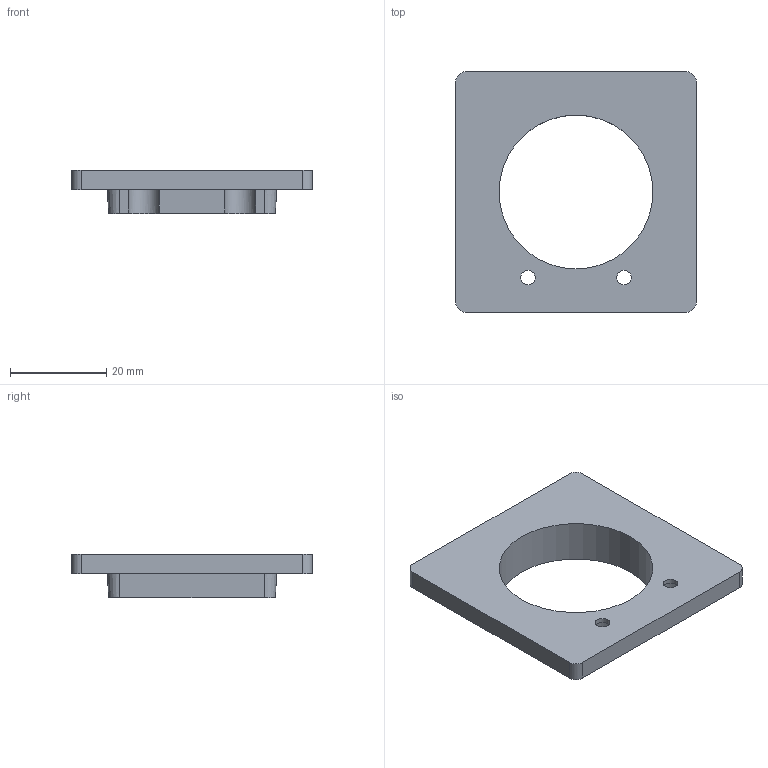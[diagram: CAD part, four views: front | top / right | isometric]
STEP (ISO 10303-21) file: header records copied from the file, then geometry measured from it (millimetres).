
FILE_DESCRIPTION(/* description */ (''),/* implementation_level */ '2;1');
FILE_NAME(/* name */ 'C:\Users\diederichbenedict\Dropbox\Dokumente\Promotion\PROJECTS\openUC2-CAD\INVENTOR\20_Cube_Adapter_Zstage_manual.stp',/* time_stamp */ '2023-09-08T14:06:45+02:00',/* author */ ('diederichbenedict'),/* organization */ (''),/* preprocessor_version */ 'ST-DEVELOPER v18.1',/* originating_system */ 'Autodesk Inventor 2022',/* authorisation */ '');
FILE_SCHEMA (('AUTOMOTIVE_DESIGN { 1 0 10303 214 3 1 1 }'));
Length unit declared in the file: millimetre
Products named in the file (1): 20_Cube_Adapter_Zstage_manual
Bounding box: 50 x 50 x 9 mm (x, y, z)
Volume: 8467.6 mm3; surface area: 5865.9 mm2
Topology: 1 solids, 1 shells, 28 faces, 75 edges, 50 vertices
Faces by surface type: plane 15, cylinder 9, cone 4
Full cylindrical faces by diameter (mm): 3 x2, 6.5 x2, 32 x1
Entity records: 946 total; most frequent: DIRECTION 167, CARTESIAN_POINT 154, ORIENTED_EDGE 150, EDGE_CURVE 75, AXIS2_PLACEMENT_3D 63, VERTEX_POINT 50, LINE 41, VECTOR 41
